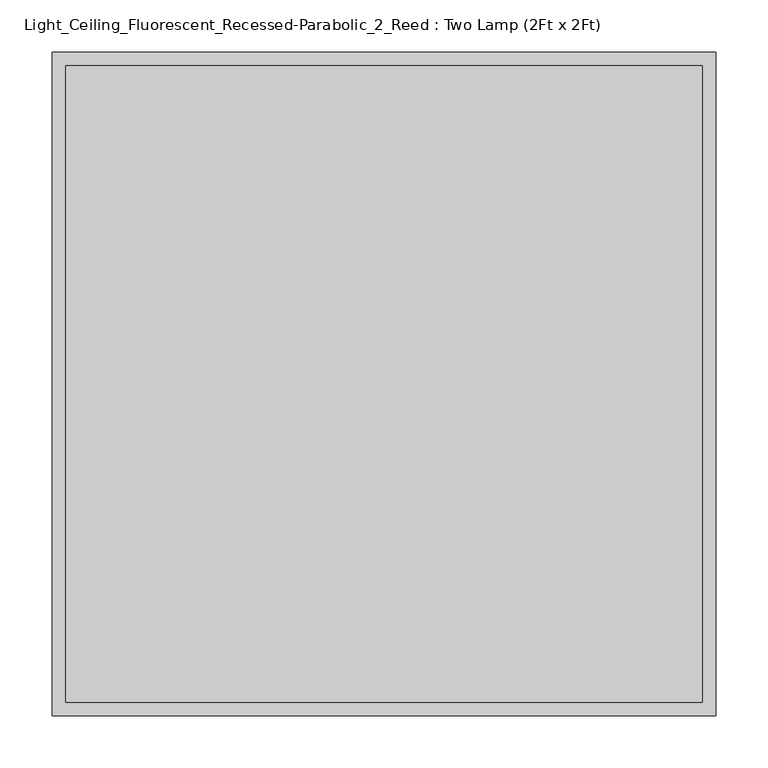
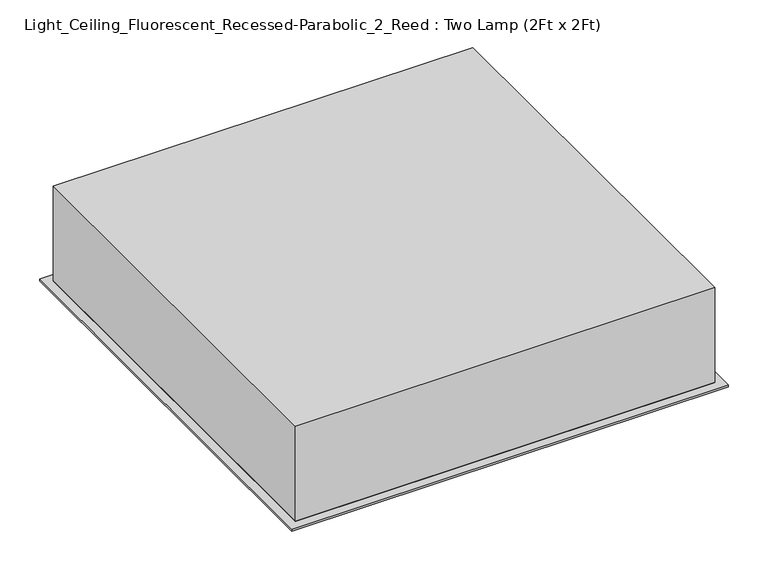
"""IFC4 building model written with IfcOpenShell, lengths in millimetres: light fixture geometry, Light_Ceiling_Fluorescent_Recessed-Parabolic_2_Reed : Two Lamp (2Ft x 2Ft)."""

from ifc_helpers import new_model, si_unit, point, frame, frame_2d, origin, place, context, project, spatial, polyline, circle_curve, trimmed, segment, composite_curve, outline, extrude, faceted_brep, source, transform, mapped, element, save


def light_ceiling_fluorescent_recessed_parabolic_2_reed_two_lamp_72a9a026(model_context):
    return source(origin(), model_context, "Body", "SolidModel", [
        extrude(outline(composite_curve([segment(trimmed(circle_curve(frame_2d((2552.7, 133.35)), 15.875), [point((2552.7, 117.475))], [point((2552.7, 149.225))], False, "CARTESIAN"), True, "CONTINUOUS"), segment(trimmed(circle_curve(frame_2d((2552.7, 133.35)), 15.875), [point((2552.7, 149.225))], [point((2552.7, 117.475))], False, "CARTESIAN"), True, "CONTINUOUS")], self_intersect=False), holes=[composite_curve([segment(trimmed(circle_curve(frame_2d((2552.7, 133.35)), 14.2875), [point((2552.7, 119.0625))], [point((2552.7, 147.6375))], True, "CARTESIAN"), True, "CONTINUOUS"), segment(trimmed(circle_curve(frame_2d((2552.7, 133.35)), 14.2875), [point((2552.7, 147.6375))], [point((2552.7, 119.0625))], True, "CARTESIAN"), True, "CONTINUOUS")], self_intersect=False)]), frame((0.0, -755.65, 0.0), z_axis=(0.0, 1.0, 0.0), x_axis=(0.0, 0.0, 1.0)), (0.0, 0.0, 1.0), 596.9),
        extrude(outline(composite_curve([segment(trimmed(circle_curve(frame_2d((2552.7, -133.35)), 15.875), [point((2552.7, -117.475))], [point((2552.7, -149.225))], False, "CARTESIAN"), True, "CONTINUOUS"), segment(trimmed(circle_curve(frame_2d((2552.7, -133.35)), 15.875), [point((2552.7, -149.225))], [point((2552.7, -117.475))], False, "CARTESIAN"), True, "CONTINUOUS")], self_intersect=False), holes=[composite_curve([segment(trimmed(circle_curve(frame_2d((2552.7, -133.35)), 14.2875), [point((2552.7, -119.0625))], [point((2552.7, -147.6375))], True, "CARTESIAN"), True, "CONTINUOUS"), segment(trimmed(circle_curve(frame_2d((2552.7, -133.35)), 14.2875), [point((2552.7, -147.6375))], [point((2552.7, -119.0625))], True, "CARTESIAN"), True, "CONTINUOUS")], self_intersect=False)]), frame((0.0, -755.65, 0.0), z_axis=(0.0, 1.0, 0.0), x_axis=(0.0, 0.0, 1.0)), (0.0, 0.0, 1.0), 596.9),
        extrude(outline(polyline([(-304.8, -762.0), (-304.8, -152.4), (304.8, -152.4), (304.8, -762.0), (-304.8, -762.0)])), frame((0.0, 0.0, 2435.2360257), z_axis=(0.0, 0.0, 1.0), x_axis=(1.0, 0.0, 0.0)), (0.0, 0.0, 1.0), 3.1639743),
        faceted_brep([(304.8, -762.0, 2584.45), (-304.8, -762.0, 2584.45), (-304.8, -762.0, 2438.4), (304.8, -762.0, 2438.4), (-304.8, -152.4, 2584.45), (304.8, -152.4, 2584.45), (304.8, -152.4, 2438.4), (-304.8, -152.4, 2438.4), (304.8, -755.65, 2584.45), (-304.8, -755.65, 2584.45), (-284.5161124, -755.65, 2438.4), (284.5161124, -755.65, 2438.4), (284.5161124, -158.75, 2438.4), (-284.5161124, -158.75, 2438.4), (-284.5161124, -755.65, 2526.0252715), (-284.5161124, -158.75, 2526.0252715), (-265.4661124, -755.65, 2526.0252715), (-265.4661124, -158.75, 2526.0252715), (-217.0698829, -755.65, 2578.1), (-217.0698829, -158.75, 2578.1), (217.0698829, -755.65, 2578.1), (217.0698829, -158.75, 2578.1), (265.4661124, -755.65, 2526.0252715), (265.4661124, -158.75, 2526.0252715), (284.5161124, -755.65, 2526.0252715), (284.5161124, -158.75, 2526.0252715)], [[[0, 1, 2, 3]], [[4, 5, 6, 7]], [[1, 0, 8, 5, 4, 9]], [[2, 1, 9, 4, 7]], [[3, 2, 7, 6], [10, 11, 12, 13]], [[14, 10, 13, 15]], [[16, 14, 15, 17]], [[18, 16, 17, 19]], [[20, 18, 19, 21]], [[22, 20, 21, 23]], [[24, 22, 23, 25]], [[11, 24, 25, 12]], [[0, 3, 6, 5, 8]], [[11, 10, 14, 16, 18, 20, 22, 24]], [[13, 12, 25, 23, 21, 19, 17, 15]]]),
        faceted_brep([(317.5, -139.7, 2438.4), (-317.5, -139.7, 2438.4), (-317.5, -774.7, 2438.4), (317.5, -774.7, 2438.4), (304.8, -152.4, 2438.4), (304.8, -762.0, 2438.4), (-304.8, -762.0, 2438.4), (-304.8, -152.4, 2438.4), (317.5, -139.7, 2435.2360257), (317.5, -774.7, 2435.2360257), (-317.5, -774.7, 2435.2360257), (-317.5, -139.7, 2435.2360257), (304.8, -152.4, 2435.2360257), (-304.8, -152.4, 2435.2360257), (-304.8, -762.0, 2435.2360257), (304.8, -762.0, 2435.2360257)], [[[0, 1, 2, 3], [4, 5, 6, 7]], [[8, 9, 10, 11], [12, 13, 14, 15]], [[5, 4, 12, 15]], [[6, 5, 15, 14]], [[7, 6, 14, 13]], [[4, 7, 13, 12]], [[1, 0, 8, 11]], [[2, 1, 11, 10]], [[3, 2, 10, 9]], [[0, 3, 9, 8]]]),
        extrude(outline(polyline([(-284.5161124, -158.75), (284.5161124, -158.75), (284.5161124, -755.65), (-284.5161124, -755.65), (-284.5161124, -158.75)])), frame((0.0, 0.0, 2514.6), z_axis=(0.0, 0.0, 1.0), x_axis=(1.0, 0.0, 0.0)), (0.0, 0.0, 1.0), 1.5875),
    ])


if __name__ == "__main__":
    model = new_model("IFC4")
    model_context = context("Model", 3, world=origin())
    ifc_project = project(units=[si_unit("LENGTHUNIT", "METRE", prefix="MILLI")], contexts=[model_context])
    site = spatial("IfcSite", under=ifc_project)
    building = spatial("IfcBuilding", under=site)
    placement = place(None, origin())
    light_ceiling_fluorescent_recessed_parabolic_2_reed_two_lamp_shape = light_ceiling_fluorescent_recessed_parabolic_2_reed_two_lamp_72a9a026(model_context)
    element("IfcLightFixture", 1, ObjectType="Light_Ceiling_Fluorescent_Recessed-Parabolic_2_Reed : Two Lamp (2Ft x 2Ft)", at=placement, inside=building, context=model_context, shape_type="MappedRepresentation", body=[
        mapped(light_ceiling_fluorescent_recessed_parabolic_2_reed_two_lamp_shape, transform((0.0, 0.0, 0.0), x_axis=(1.0, 0.0, 0.0), y_axis=(0.0, 1.0, 0.0), z_axis=(0.0, 0.0, 1.0))),
    ])
    save(model, "model.ifc")
